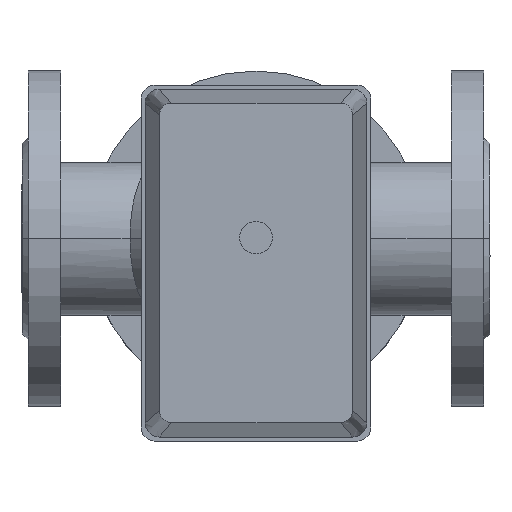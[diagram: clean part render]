
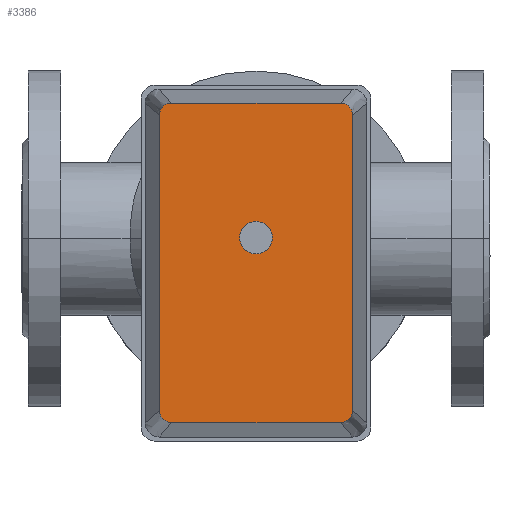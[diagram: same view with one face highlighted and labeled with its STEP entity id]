
A CAD part, top view. The second image highlights one B-rep face of the part: STEP entity #3386.
In plain terms, the highlighted planar face has unit normal (0, 0, 1).
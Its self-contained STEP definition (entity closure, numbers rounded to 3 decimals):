
#310=LINE('',#5801,#505);
#311=LINE('',#5805,#506);
#312=LINE('',#5809,#507);
#313=LINE('',#5813,#508);
#505=VECTOR('',#4768,304.8);
#506=VECTOR('',#4771,304.8);
#507=VECTOR('',#4774,304.8);
#508=VECTOR('',#4777,304.8);
#863=FACE_OUTER_BOUND('',#1106,.T.);
#1106=EDGE_LOOP('',(#2746,#2747,#2748,#2749,#2750,#2751,#2752,#2753));
#1337=CIRCLE('',#3809,6.);
#1338=CIRCLE('',#3810,6.);
#1339=CIRCLE('',#3811,6.);
#1340=CIRCLE('',#3812,6.);
#1603=VERTEX_POINT('',#5799);
#1604=VERTEX_POINT('',#5800);
#1605=VERTEX_POINT('',#5802);
#1606=VERTEX_POINT('',#5804);
#1607=VERTEX_POINT('',#5806);
#1608=VERTEX_POINT('',#5808);
#1609=VERTEX_POINT('',#5810);
#1610=VERTEX_POINT('',#5812);
#1996=EDGE_CURVE('',#1603,#1604,#310,.T.);
#1997=EDGE_CURVE('',#1604,#1605,#1337,.T.);
#1998=EDGE_CURVE('',#1605,#1606,#311,.T.);
#1999=EDGE_CURVE('',#1606,#1607,#1338,.T.);
#2000=EDGE_CURVE('',#1607,#1608,#312,.T.);
#2001=EDGE_CURVE('',#1608,#1609,#1339,.T.);
#2002=EDGE_CURVE('',#1609,#1610,#313,.T.);
#2003=EDGE_CURVE('',#1610,#1603,#1340,.T.);
#2746=ORIENTED_EDGE('',*,*,#1996,.T.);
#2747=ORIENTED_EDGE('',*,*,#1997,.T.);
#2748=ORIENTED_EDGE('',*,*,#1998,.T.);
#2749=ORIENTED_EDGE('',*,*,#1999,.T.);
#2750=ORIENTED_EDGE('',*,*,#2000,.T.);
#2751=ORIENTED_EDGE('',*,*,#2001,.T.);
#2752=ORIENTED_EDGE('',*,*,#2002,.T.);
#2753=ORIENTED_EDGE('',*,*,#2003,.T.);
#3012=PLANE('',#3808);
#3386=ADVANCED_FACE('',(#863),#3012,.T.);
#3808=AXIS2_PLACEMENT_3D('',#5798,#4766,#4767);
#3809=AXIS2_PLACEMENT_3D('',#5803,#4769,#4770);
#3810=AXIS2_PLACEMENT_3D('',#5807,#4772,#4773);
#3811=AXIS2_PLACEMENT_3D('',#5811,#4775,#4776);
#3812=AXIS2_PLACEMENT_3D('',#5814,#4778,#4779);
#4766=DIRECTION('center_axis',(0.,0.,1.));
#4767=DIRECTION('ref_axis',(0.,-1.,0.));
#4768=DIRECTION('',(0.,-1.,0.));
#4769=DIRECTION('center_axis',(0.,0.,1.));
#4770=DIRECTION('ref_axis',(1.,0.,0.));
#4771=DIRECTION('',(1.,0.,0.));
#4772=DIRECTION('center_axis',(0.,0.,1.));
#4773=DIRECTION('ref_axis',(1.,0.,0.));
#4774=DIRECTION('',(0.,1.,0.));
#4775=DIRECTION('center_axis',(0.,0.,1.));
#4776=DIRECTION('ref_axis',(1.,0.,0.));
#4777=DIRECTION('',(-1.,0.,0.));
#4778=DIRECTION('center_axis',(0.,0.,1.));
#4779=DIRECTION('ref_axis',(1.,0.,0.));
#5798=CARTESIAN_POINT('Origin',(-12.5,0.002,249.));
#5799=CARTESIAN_POINT('',(-91.,41.502,249.));
#5800=CARTESIAN_POINT('',(-91.,-41.498,249.));
#5801=CARTESIAN_POINT('',(-91.,-41.498,249.));
#5802=CARTESIAN_POINT('',(-85.,-47.498,249.));
#5803=CARTESIAN_POINT('Origin',(-85.,-41.498,249.));
#5804=CARTESIAN_POINT('',(60.,-47.498,249.));
#5805=CARTESIAN_POINT('',(60.,-47.498,249.));
#5806=CARTESIAN_POINT('',(66.,-41.498,249.));
#5807=CARTESIAN_POINT('Origin',(60.,-41.498,249.));
#5808=CARTESIAN_POINT('',(66.,41.502,249.));
#5809=CARTESIAN_POINT('',(66.,41.502,249.));
#5810=CARTESIAN_POINT('',(60.,47.502,249.));
#5811=CARTESIAN_POINT('Origin',(60.,41.502,249.));
#5812=CARTESIAN_POINT('',(-85.,47.502,249.));
#5813=CARTESIAN_POINT('',(-85.,47.502,249.));
#5814=CARTESIAN_POINT('Origin',(-85.,41.502,249.));
